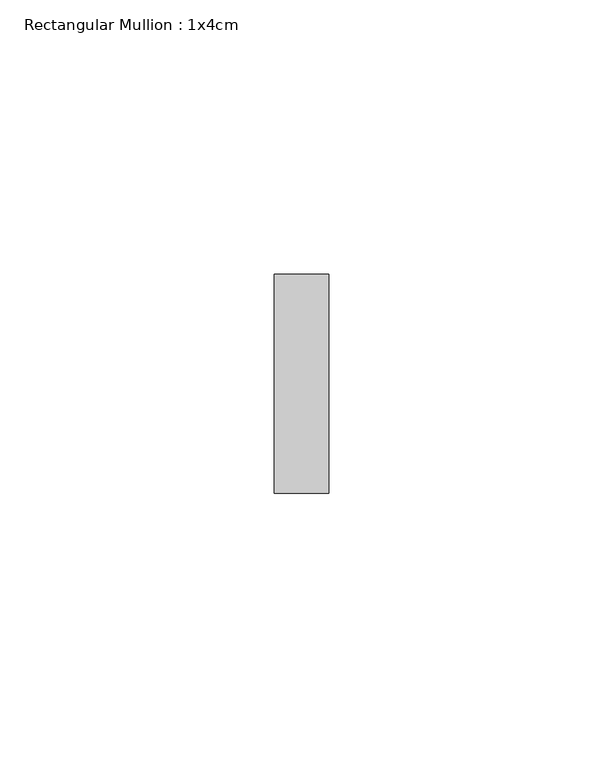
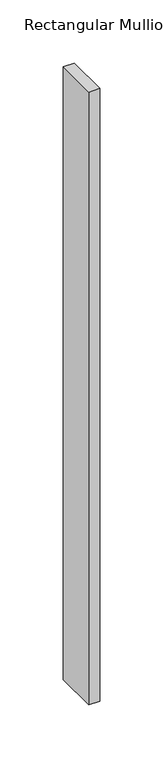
"""IFC4 building model written with IfcOpenShell, lengths in millimetres: member geometry, Rectangular Mullion : 1x4cm."""

import ifcopenshell
import ifcopenshell.guid

model = None  # the IFC model being written
_history = None  # IfcOwnerHistory: only IFC2X3 demands one
_inside = {}  # id of a spatial element -> (the spatial element, [elements in it])
_under = {}  # id of a project, library or spatial element -> (it, [spatial elements below it])
_declared = {}  # id of a project -> (the project, [libraries it declares])
_typed = {}  # id of a type object -> (the type object, [elements of that type])
_made_of = {}  # id of a material, layer set ... -> (it, [elements and type objects made of it])


def new_model(schema):
    """Start an empty IFC model of exactly this schema.

    Asked for "IFC4X3", IfcOpenShell would pick the latest addendum, in which some entities
    have other attributes; the version numbers below select the first issue.
    IFC2X3 requires an IfcOwnerHistory on every rooted entity: one is made here for all.
    """
    global model, _history
    if schema == "IFC4X3":
        model = ifcopenshell.file(schema_version=(4, 3, 0, 0))
    else:
        model = ifcopenshell.file(schema=schema)
    _inside.clear()
    _under.clear()
    _declared.clear()
    _typed.clear()
    _made_of.clear()
    _history = None
    if model.schema == "IFC2X3":
        org = make("IfcOrganization", Name="unknown")
        user = make(
            "IfcPersonAndOrganization",
            ThePerson=make("IfcPerson", FamilyName="unknown"),
            TheOrganization=org,
        )
        app = make(
            "IfcApplication",
            ApplicationDeveloper=org,
            Version="unknown",
            ApplicationFullName="unknown",
            ApplicationIdentifier="unknown",
        )
        _history = make(
            "IfcOwnerHistory",
            OwningUser=user,
            OwningApplication=app,
            ChangeAction="ADDED",
            CreationDate=0,
        )
    return model


def make(cls, **values):
    """One entity of the class cls with the attributes given. An attribute that is None is left unset."""
    return model.create_entity(
        cls, **{name: value for name, value in values.items() if value is not None}
    )


def rooted(cls, **values):
    """An entity with a GlobalId (a new one), such as an element, a storey or a relation."""
    return make(cls, GlobalId=ifcopenshell.guid.new(), OwnerHistory=_history, **values)


def si_unit(unit_type, name, prefix=None):
    """IfcSIUnit, for example si_unit("LENGTHUNIT", "METRE", prefix="MILLI")."""
    return make("IfcSIUnit", UnitType=unit_type, Prefix=prefix, Name=name)


def assignment(units):
    """IfcUnitAssignment: the units of a project."""
    return None if units is None else make("IfcUnitAssignment", Units=units)


def point(xyz):
    """IfcCartesianPoint."""
    return None if xyz is None else make("IfcCartesianPoint", Coordinates=xyz)


def direction(xyz):
    """IfcDirection."""
    return None if xyz is None else make("IfcDirection", DirectionRatios=xyz)


def frame(location, z_axis=None, x_axis=None):
    """IfcAxis2Placement3D, a coordinate frame: its origin and axes. An axis left out is left unset."""
    return make(
        "IfcAxis2Placement3D",
        Location=point(location),
        Axis=direction(z_axis),
        RefDirection=direction(x_axis),
    )


def origin():
    """The frame at (0, 0, 0) with its axes left unset."""
    return frame((0.0, 0.0, 0.0))


def place(relative_to, where):
    """IfcLocalPlacement: puts the frame where relative to a parent placement (None: the world)."""
    return make(
        "IfcLocalPlacement", PlacementRelTo=relative_to, RelativePlacement=where
    )


def context(
    kind, dimensions, precision=None, world=None, true_north=None, identifier=None
):
    """IfcGeometricRepresentationContext, for example the 3D "Model" context."""
    return make(
        "IfcGeometricRepresentationContext",
        ContextIdentifier=identifier,
        ContextType=kind,
        CoordinateSpaceDimension=dimensions,
        Precision=precision,
        WorldCoordinateSystem=world,
        TrueNorth=true_north,
    )


def project(units=None, contexts=None):
    """IfcProject with its units and contexts."""
    return rooted(
        "IfcProject",
        Name="project",
        RepresentationContexts=contexts,
        UnitsInContext=assignment(units),
    )


def spatial(cls, under=None, at=None, **own):
    """A site, building, storey or space (cls), placed at a placement, below another one or the project."""
    s = rooted(cls, ObjectPlacement=at, **own)
    if under is not None:
        _under.setdefault(under.id(), (under, []))[1].append(s)
    return s


def polyline(points):
    """IfcPolyline through the points."""
    return make("IfcPolyline", Points=[point(p) for p in points])


def outline(outer, holes=None, kind="AREA"):
    """IfcArbitraryClosedProfileDef: a profile drawn as a closed curve; with holes, ...WithVoids."""
    if holes is None:
        return make("IfcArbitraryClosedProfileDef", ProfileType=kind, OuterCurve=outer)
    return make(
        "IfcArbitraryProfileDefWithVoids",
        ProfileType=kind,
        OuterCurve=outer,
        InnerCurves=holes,
    )


def extrude(swept, where, along, depth):
    """IfcExtrudedAreaSolid: the profile swept, set in the frame where, extruded along a direction by depth."""
    return make(
        "IfcExtrudedAreaSolid",
        SweptArea=swept,
        Position=where,
        ExtrudedDirection=direction(along),
        Depth=depth,
    )


def shape(context_of_items, identifier, shape_type, items):
    """IfcShapeRepresentation: the items that make up one representation, for example the "Body"."""
    return make(
        "IfcShapeRepresentation",
        ContextOfItems=context_of_items,
        RepresentationIdentifier=identifier,
        RepresentationType=shape_type,
        Items=items,
    )


def source(mapping_origin, context_of_items, identifier, shape_type, items):
    """IfcRepresentationMap: a shape defined once, which mapped items show again and again."""
    return make(
        "IfcRepresentationMap",
        MappingOrigin=mapping_origin,
        MappedRepresentation=shape(context_of_items, identifier, shape_type, items),
    )


def transform(
    local_origin,
    x_axis=None,
    y_axis=None,
    z_axis=None,
    scale=None,
    scale2=None,
    scale3=None,
    uniform=True,
):
    """IfcCartesianTransformationOperator3D, or its non-uniform kind. x_axis, y_axis, z_axis: its Axis1, 2, 3."""
    if uniform:
        return make(
            "IfcCartesianTransformationOperator3D",
            Axis1=direction(x_axis),
            Axis2=direction(y_axis),
            LocalOrigin=point(local_origin),
            Scale=scale,
            Axis3=direction(z_axis),
        )
    return make(
        "IfcCartesianTransformationOperator3DnonUniform",
        Axis1=direction(x_axis),
        Axis2=direction(y_axis),
        LocalOrigin=point(local_origin),
        Scale=scale,
        Axis3=direction(z_axis),
        Scale2=scale2,
        Scale3=scale3,
    )


def mapped(mapping_source, mapping_target):
    """IfcMappedItem: shows the shape of a source again, moved by a transform."""
    return make(
        "IfcMappedItem", MappingSource=mapping_source, MappingTarget=mapping_target
    )


def made_of(thing, what):
    """Note that an element or type object is made of a material, layer set ...; save() writes the relation."""
    if what is not None:
        _made_of.setdefault(what.id(), (what, []))[1].append(thing)
    return thing


def element(
    cls,
    number,
    at=None,
    inside=None,
    cuts=None,
    type_object=None,
    material=None,
    context=None,
    identifier="Body",
    shape_type=None,
    held_by="IfcProductDefinitionShape",
    body=None,
    shapes=None,
    **own,
):
    """One element of the class cls, such as IfcWall. Its Tag is "e" and its number.

    at: its placement. inside: the storey or other place that contains it. cuts: it is an
    opening in that element (IfcRelVoidsElement). A single representation is given by context,
    identifier, shape_type and body (its items); several are given by shapes. held_by: the class
    of the entity that holds the representations. save() writes the other relations.
    """
    e = rooted(cls, Tag="e%d" % number, ObjectPlacement=at, **own)
    if body is not None:
        shapes = [shape(context, identifier, shape_type, body)]
    if shapes is not None:
        e.Representation = make(held_by, Representations=shapes)
    if inside is not None:
        _inside.setdefault(inside.id(), (inside, []))[1].append(e)
    if cuts is not None:
        rooted(
            "IfcRelVoidsElement", RelatingBuildingElement=cuts, RelatedOpeningElement=e
        )
    if type_object is not None:
        _typed.setdefault(type_object.id(), (type_object, []))[1].append(e)
    return made_of(e, material)


def aggregate(whole, parts):
    """IfcRelAggregates: a whole, such as a stair, and the parts it consists of."""
    return rooted("IfcRelAggregates", RelatingObject=whole, RelatedObjects=parts)


def save(model, path):
    """Write the relations noted so far, then the file.

    IfcRelAggregates (storeys below a building ...), IfcRelContainedInSpatialStructure (elements
    in a storey), IfcRelDefinesByType, IfcRelAssociatesMaterial and IfcRelDeclares: one each for
    every whole, place, type object, material and project.
    """
    for whole, parts in _under.values():
        aggregate(whole, parts)
    for where, things in _inside.values():
        rooted(
            "IfcRelContainedInSpatialStructure",
            RelatedElements=things,
            RelatingStructure=where,
        )
    for kind, things in _typed.values():
        rooted("IfcRelDefinesByType", RelatedObjects=things, RelatingType=kind)
    for what, things in _made_of.values():
        rooted("IfcRelAssociatesMaterial", RelatedObjects=things, RelatingMaterial=what)
    for by, libraries in _declared.values():
        rooted("IfcRelDeclares", RelatingContext=by, RelatedDefinitions=libraries)
    model.write(path)


def rectangular_mullion_1x4cm_1d45312a(model_context):
    return source(origin(), model_context, "Body", "SweptSolid", [
        extrude(outline(polyline([(0.0, 20.0), (0.0, -20.0), (-10.0, -20.0), (-10.0, 20.0), (0.0, 20.0)])), frame((0.0, 0.0, -591.2277107), z_axis=(0.0, 0.0, 1.0), x_axis=(1.0, 0.0, 0.0)), (0.0, 0.0, 1.0), 591.2277107),
    ])


if __name__ == "__main__":
    model = new_model("IFC4")
    model_context = context("Model", 3, world=origin())
    ifc_project = project(units=[si_unit("LENGTHUNIT", "METRE", prefix="MILLI")], contexts=[model_context])
    site = spatial("IfcSite", under=ifc_project)
    building = spatial("IfcBuilding", under=site)
    placement = place(None, origin())
    rectangular_mullion_1x4cm_shape = rectangular_mullion_1x4cm_1d45312a(model_context)
    element("IfcMember", 1, ObjectType="Rectangular Mullion : 1x4cm", at=placement, inside=building, context=model_context, shape_type="MappedRepresentation", body=[
        mapped(rectangular_mullion_1x4cm_shape, transform((0.0, 0.0, 0.0), x_axis=(1.0, 0.0, 0.0), y_axis=(0.0, 1.0, 0.0), z_axis=(0.0, 0.0, 1.0))),
    ])
    save(model, "model.ifc")
